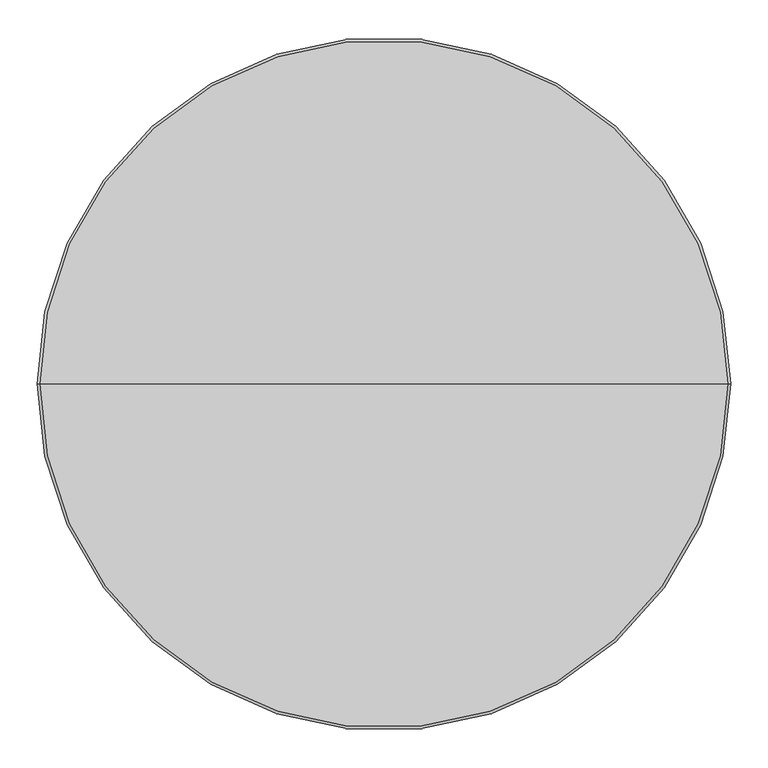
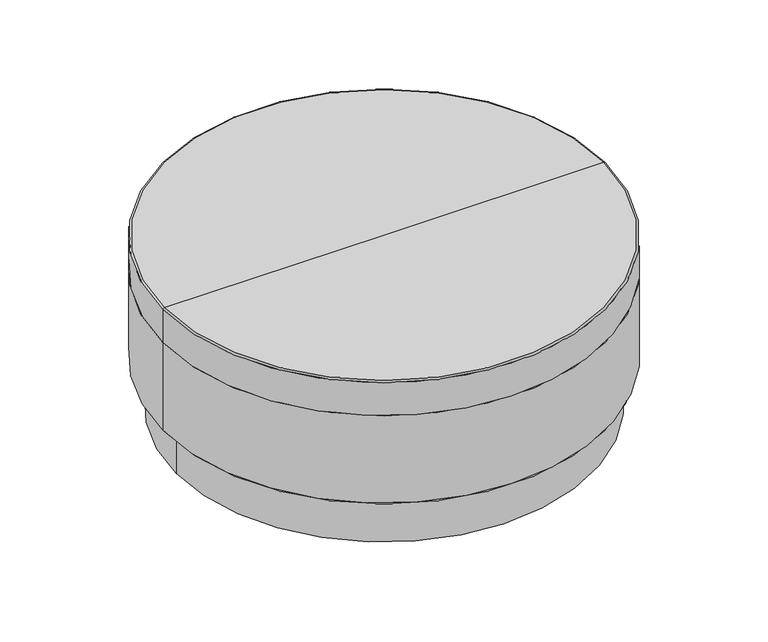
"""IFC4 building model written with IfcOpenShell, lengths in millimetres: furniture geometry, StanceHC-Drum_Table-Plinth_Base : 3-DRT36D16-U-PL."""

from ifc_helpers import new_model, si_unit, point, frame, frame_2d, origin, origin_with_axes, place, context, project, spatial, circle_curve, ellipse_curve, trimmed, segment, composite_curve, outline, extrude, source, transform, mapped, element, save
from ifc_brep_helpers import plane_surface, cylinder_surface, revolved_surface, advanced_brep


def furniture_6be4e087(model_context):
    return source(origin(), model_context, "Body", "SolidModel", [
        extrude(outline(composite_curve([segment(trimmed(circle_curve(frame_2d((0.0, 402.5164845)), 12.7), [point((-12.7, 402.5164845))], [point((12.7, 402.5164845))], False, "CARTESIAN"), True, "CONTINUOUS"), segment(trimmed(circle_curve(frame_2d((0.0, 402.5164845)), 12.7), [point((12.7, 402.5164845))], [point((-12.7, 402.5164845))], False, "CARTESIAN"), True, "CONTINUOUS")], self_intersect=False)), origin_with_axes(), (0.0, 0.0, 1.0), 4.7625),
        extrude(outline(composite_curve([segment(trimmed(circle_curve(frame_2d((0.0, -402.5164845)), 12.7), [point((-12.7, -402.5164845))], [point((12.7, -402.5164845))], False, "CARTESIAN"), True, "CONTINUOUS"), segment(trimmed(circle_curve(frame_2d((0.0, -402.5164845)), 12.7), [point((12.7, -402.5164845))], [point((-12.7, -402.5164845))], False, "CARTESIAN"), True, "CONTINUOUS")], self_intersect=False)), origin_with_axes(), (0.0, 0.0, 1.0), 4.7625),
        extrude(outline(composite_curve([segment(trimmed(circle_curve(frame_2d((406.3996404, 0.0)), 12.7), [point((393.6996404, 0.0))], [point((419.0996404, 0.0))], False, "CARTESIAN"), True, "CONTINUOUS"), segment(trimmed(circle_curve(frame_2d((406.3996404, 0.0)), 12.7), [point((419.0996404, 0.0))], [point((393.6996404, 0.0))], False, "CARTESIAN"), True, "CONTINUOUS")], self_intersect=False)), origin_with_axes(), (0.0, 0.0, 1.0), 4.7625),
        extrude(outline(composite_curve([segment(trimmed(circle_curve(frame_2d((-406.3996404, 0.0)), 12.7), [point((-419.0996404, 0.0))], [point((-393.6996404, 0.0))], False, "CARTESIAN"), True, "CONTINUOUS"), segment(trimmed(circle_curve(frame_2d((-406.3996404, 0.0)), 12.7), [point((-393.6996404, 0.0))], [point((-419.0996404, 0.0))], False, "CARTESIAN"), True, "CONTINUOUS")], self_intersect=False)), origin_with_axes(), (0.0, 0.0, 1.0), 4.7625),
        advanced_brep(
        [(-458.7542756, 0.0, 106.3625), (458.7542756, 0.0, 106.3625), (434.9746404, 0.0, 106.3625), (-434.9746404, 0.0, 106.3625), (-458.7542756, 0.0, 111.125), (458.7542756, 0.0, 111.125), (0.0, 0.0, 111.125), (-434.9746404, 0.0, 4.7625), (434.9746404, 0.0, 4.7625), (0.0, 0.0, 4.7625)],
        [
            (0, 1, circle_curve(frame((0.0, 0.0, 106.3625), z_axis=(0.0, 0.0, -1.0), x_axis=(1.0, 0.0, 0.0)), 458.7542756)),
            (1, 2),
            (2, 3, circle_curve(frame((0.0, 0.0, 106.3625), z_axis=(0.0, 0.0, 1.0), x_axis=(1.0, 0.0, 0.0)), 434.9746404)),
            (3, 0),
            (1, 0, circle_curve(frame((0.0, 0.0, 106.3625), z_axis=(0.0, 0.0, -1.0), x_axis=(1.0, 0.0, 0.0)), 458.7542756)),
            (3, 2, circle_curve(frame((0.0, 0.0, 106.3625), z_axis=(0.0, 0.0, 1.0), x_axis=(1.0, 0.0, 0.0)), 434.9746404)),
            (4, 5, circle_curve(frame((0.0, 0.0, 111.125), z_axis=(0.0, 0.0, -1.0), x_axis=(1.0, 0.0, 0.0)), 458.7542756)),
            (5, 1, circle_curve(frame((458.7542756, 0.0, 108.74375), z_axis=(0.0, 1.0, 0.0), x_axis=(1.0, 0.0, 0.0)), 2.38125)),
            (0, 4, circle_curve(frame((-458.7542756, 0.0, 108.74375), z_axis=(0.0, 1.0, 0.0), x_axis=(-1.0, 0.0, 0.0)), 2.38125)),
            (5, 4, circle_curve(frame((0.0, 0.0, 111.125), z_axis=(0.0, 0.0, -1.0), x_axis=(1.0, 0.0, 0.0)), 458.7542756)),
            (6, 5),
            (4, 6),
            (7, 8, circle_curve(frame((0.0, 0.0, 4.7625), z_axis=(0.0, 0.0, -1.0), x_axis=(1.0, 0.0, 0.0)), 434.9746404)),
            (8, 9),
            (9, 7),
            (8, 7, circle_curve(frame((0.0, 0.0, 4.7625), z_axis=(0.0, 0.0, -1.0), x_axis=(1.0, 0.0, 0.0)), 434.9746404)),
            (2, 8),
            (7, 3),
        ],
        [
            plane_surface(frame((0.0, 0.0, 106.3625), z_axis=(0.0, 0.0, -1.0), x_axis=(1.0, 0.0, 0.0))),
            revolved_surface(trimmed(ellipse_curve(frame((458.7542756, 0.0, 108.74375), z_axis=(0.0, -1.0, 0.0), x_axis=(1.0, 0.0, 0.0)), 2.38125, 2.38125), [point((458.7542756, 0.0, 106.3625))], [point((458.7542756, 0.0, 111.125))], True, "CARTESIAN"), (0.0, 0.0, 165.1), (0.0, 0.0, 1.0)),
            plane_surface(frame((0.0, 0.0, 111.125), z_axis=(0.0, 0.0, 1.0), x_axis=(1.0, 0.0, 0.0))),
            plane_surface(frame((0.0, 0.0, 4.7625), z_axis=(0.0, 0.0, -1.0), x_axis=(1.0, 0.0, 0.0))),
            cylinder_surface(frame((0.0, 0.0, 165.1), z_axis=(0.0, 0.0, 1.0), x_axis=(1.0, 0.0, 0.0)), 434.9746404),
        ],
        [
            (0, [[1, 2, 3, 4]]),
            (0, [[5, -4, 6, -2]]),
            (1, [[7, 8, -1, 9]]),
            (1, [[10, -9, -5, -8]]),
            (2, [[11, -7, 12]]),
            (2, [[-12, -10, -11]]),
            (3, [[13, 14, 15]]),
            (3, [[16, -15, -14]]),
            (4, [[-3, 17, -13, 18]]),
            (4, [[-6, -18, -16, -17]]),
        ],
    ),
        advanced_brep(
        [(0.0, 0.0, 304.8), (463.55, 0.0, 304.8), (-463.55, 0.0, 304.8), (-463.55, 0.0, 111.125), (463.55, 0.0, 111.125), (0.0, 0.0, 111.125)],
        [
            (0, 1),
            (1, 2, circle_curve(frame((0.0, 0.0, 304.8), z_axis=(0.0, 0.0, 1.0), x_axis=(1.0, 0.0, 0.0)), 463.55)),
            (2, 0),
            (2, 1, circle_curve(frame((0.0, 0.0, 304.8), z_axis=(0.0, 0.0, 1.0), x_axis=(1.0, 0.0, 0.0)), 463.55)),
            (3, 4, circle_curve(frame((0.0, 0.0, 111.125), z_axis=(0.0, 0.0, -1.0), x_axis=(1.0, 0.0, 0.0)), 463.55)),
            (4, 5),
            (5, 3),
            (4, 3, circle_curve(frame((0.0, 0.0, 111.125), z_axis=(0.0, 0.0, -1.0), x_axis=(1.0, 0.0, 0.0)), 463.55)),
            (1, 4),
            (3, 2),
        ],
        [
            plane_surface(frame((0.0, 0.0, 304.8), z_axis=(0.0, 0.0, 1.0), x_axis=(1.0, 0.0, 0.0))),
            plane_surface(frame((0.0, 0.0, 111.125), z_axis=(0.0, 0.0, -1.0), x_axis=(1.0, 0.0, 0.0))),
            cylinder_surface(frame((0.0, 0.0, 457.2), z_axis=(0.0, 0.0, 1.0), x_axis=(1.0, 0.0, 0.0)), 463.55),
        ],
        [
            (0, [[1, 2, 3]]),
            (0, [[-3, 4, -1]]),
            (1, [[5, 6, 7]]),
            (1, [[8, -7, -6]]),
            (2, [[-2, 9, -5, 10]]),
            (2, [[-4, -10, -8, -9]]),
        ],
    ),
        advanced_brep(
        [(-463.55, 0.0, 304.8), (463.55, 0.0, 304.8), (0.0, 0.0, 304.8), (-463.55, 0.0, 377.8764933), (463.55, 0.0, 377.8764933), (-460.4264933, 0.0, 381.0), (460.4264933, 0.0, 381.0), (0.0, 0.0, 381.0)],
        [
            (0, 1, circle_curve(frame((0.0, 0.0, 304.8), z_axis=(0.0, 0.0, -1.0), x_axis=(1.0, 0.0, 0.0)), 463.55)),
            (1, 2),
            (2, 0),
            (1, 0, circle_curve(frame((0.0, 0.0, 304.8), z_axis=(0.0, 0.0, -1.0), x_axis=(1.0, 0.0, 0.0)), 463.55)),
            (3, 4, circle_curve(frame((0.0, 0.0, 377.8764933), z_axis=(0.0, 0.0, -1.0), x_axis=(1.0, 0.0, 0.0)), 463.55)),
            (4, 1),
            (0, 3),
            (4, 3, circle_curve(frame((0.0, 0.0, 377.8764933), z_axis=(0.0, 0.0, -1.0), x_axis=(1.0, 0.0, 0.0)), 463.55)),
            (5, 6, circle_curve(frame((0.0, 0.0, 381.0), z_axis=(0.0, 0.0, -1.0), x_axis=(1.0, 0.0, 0.0)), 460.4264933)),
            (6, 4, circle_curve(frame((460.4264933, 0.0, 377.8764933), z_axis=(0.0, 1.0, 0.0), x_axis=(1.0, 0.0, 0.0)), 3.1235067)),
            (3, 5, circle_curve(frame((-460.4264933, 0.0, 377.8764933), z_axis=(0.0, 1.0, 0.0), x_axis=(-1.0, 0.0, 0.0)), 3.1235067)),
            (6, 5, circle_curve(frame((0.0, 0.0, 381.0), z_axis=(0.0, 0.0, -1.0), x_axis=(1.0, 0.0, 0.0)), 460.4264933)),
            (7, 6),
            (5, 7),
        ],
        [
            plane_surface(frame((0.0, 0.0, 304.8), z_axis=(0.0, 0.0, -1.0), x_axis=(1.0, 0.0, 0.0))),
            cylinder_surface(frame((0.0, 0.0, 476.25), z_axis=(0.0, 0.0, 1.0), x_axis=(1.0, 0.0, 0.0)), 463.55),
            revolved_surface(trimmed(ellipse_curve(frame((460.4264933, 0.0, 377.8764933), z_axis=(0.0, -1.0, 0.0), x_axis=(1.0, 0.0, 0.0)), 3.1235067, 3.1235067), [point((463.55, 0.0, 377.8764933))], [point((460.4264933, 0.0, 381.0))], True, "CARTESIAN"), (0.0, 0.0, 476.25), (0.0, 0.0, 1.0)),
            plane_surface(frame((0.0, 0.0, 381.0), z_axis=(0.0, 0.0, 1.0), x_axis=(1.0, 0.0, 0.0))),
        ],
        [
            (0, [[1, 2, 3]]),
            (0, [[4, -3, -2]]),
            (1, [[5, 6, -1, 7]]),
            (1, [[8, -7, -4, -6]]),
            (2, [[9, 10, -5, 11]]),
            (2, [[12, -11, -8, -10]]),
            (3, [[13, -9, 14]]),
            (3, [[-14, -12, -13]]),
        ],
    ),
    ])


if __name__ == "__main__":
    model = new_model("IFC4")
    model_context = context("Model", 3, world=origin())
    ifc_project = project(units=[si_unit("LENGTHUNIT", "METRE", prefix="MILLI")], contexts=[model_context])
    site = spatial("IfcSite", under=ifc_project)
    building = spatial("IfcBuilding", under=site)
    placement = place(None, origin())
    furniture_shape = furniture_6be4e087(model_context)
    element("IfcFurniture", 1, ObjectType="StanceHC-Drum_Table-Plinth_Base : 3-DRT36D16-U-PL", at=placement, inside=building, context=model_context, shape_type="MappedRepresentation", body=[
        mapped(furniture_shape, transform((0.0, 0.0, 0.0), x_axis=(1.0, 0.0, 0.0), y_axis=(0.0, 1.0, 0.0), z_axis=(0.0, 0.0, 1.0))),
    ])
    save(model, "model.ifc")
